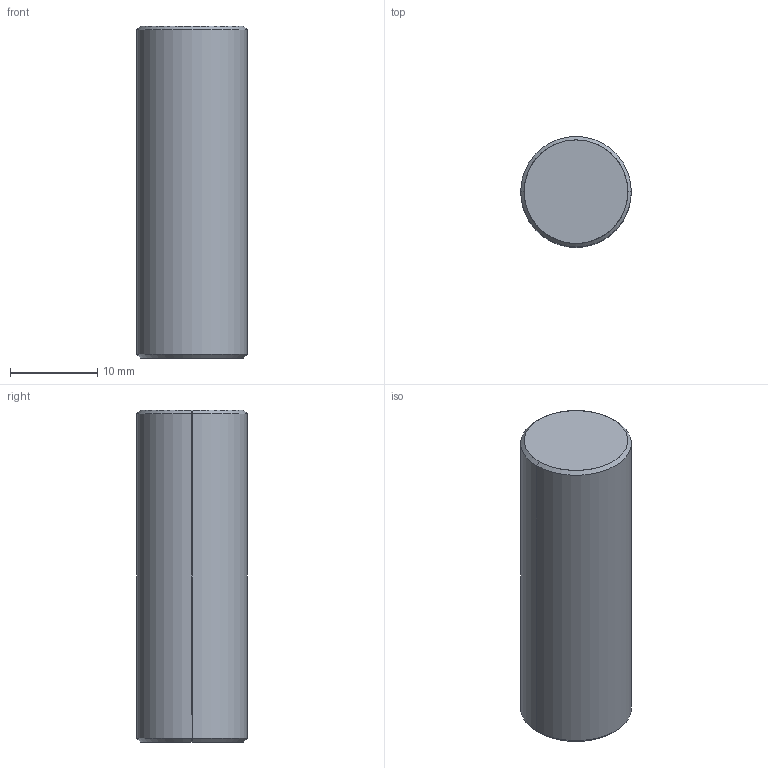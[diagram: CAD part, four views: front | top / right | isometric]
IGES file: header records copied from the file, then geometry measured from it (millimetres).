
Start section: SolidWorks IGES file using analytic representation for surfaces
Global section: file name: D:\Solid_parts\MECHeDESIGN\Bal-Tec\Catalog 105-A\Distribution\IGES\500-C.IGS; native system: SolidWorks 2005 by SolidWorks Corporation; preprocessor: SolidWorks 2005 by SolidWorks Corporation; author: rvillegas; date: 061204.225952; units: inch
Bounding box: 12.7 x 12.7 x 38.1 mm (x, y, z)
Surface area: 1754.1 mm2 (no closed solid volume)
Topology: 0 solids, 0 shells, 8 faces, 88 edges, 88 vertices
Faces by surface type: revolution 6, bspline 2
